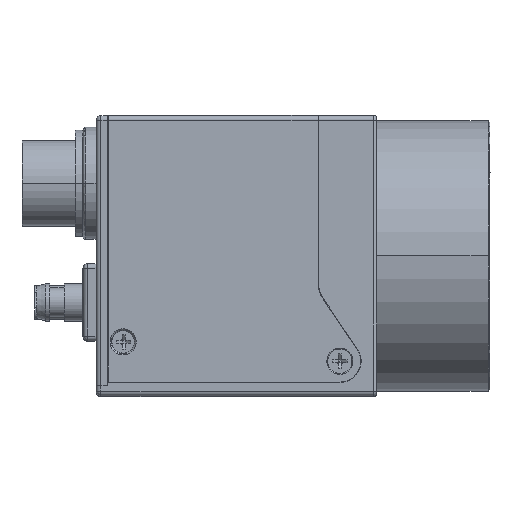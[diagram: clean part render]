
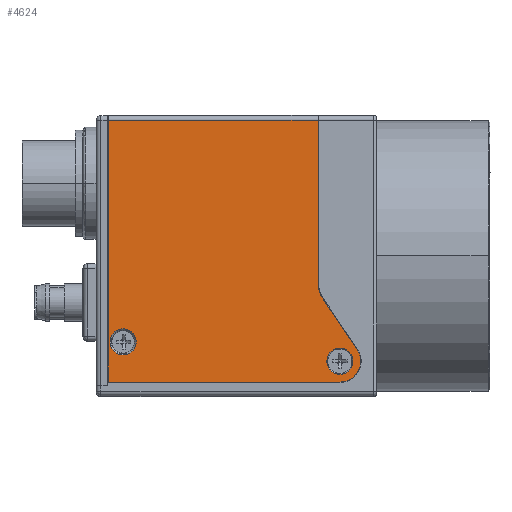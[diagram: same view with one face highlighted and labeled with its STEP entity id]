
A CAD part, top view. The second image highlights one B-rep face of the part: STEP entity #4624.
In plain terms, the highlighted planar face has unit normal (0, 0, 1) as drawn and (1, 0, 0) by its records, which use the part's own axes.
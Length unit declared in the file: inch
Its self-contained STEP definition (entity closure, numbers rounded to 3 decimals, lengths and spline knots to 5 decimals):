
#3559=DIRECTION('',(0.,-1.,0.));
#3560=VECTOR('',#3559,1.06496);
#3561=CARTESIAN_POINT('',(0.57087,1.06693,
0.42815));
#3562=LINE('',#3561,#3560);
#3567=DIRECTION('',(0.,0.,1.));
#3568=VECTOR('',#3567,0.94291);
#3569=CARTESIAN_POINT('',(0.57087,0.00197,
-0.51476));
#3570=LINE('',#3569,#3568);
#3571=DIRECTION('',(0.,-1.,0.));
#3572=VECTOR('',#3571,0.66076);
#3573=CARTESIAN_POINT('',(0.57087,1.06693,
-0.42618));
#3574=LINE('',#3573,#3572);
#3575=CARTESIAN_POINT('',(0.57087,0.40617,
-0.54626));
#3576=DIRECTION('',(1.,0.,0.));
#3577=DIRECTION('',(0.,0.,1.));
#3578=AXIS2_PLACEMENT_3D('',#3575,#3576,#3577);
#3580=DIRECTION('',(0.,-0.829,-0.559));
#3581=VECTOR('',#3580,0.24738);
#3582=CARTESIAN_POINT('',(0.57087,0.33905,
-0.44669));
#3583=LINE('',#3582,#3581);
#3584=CARTESIAN_POINT('',(0.57087,0.08661,
-0.51476));
#3585=DIRECTION('',(-1.,0.,0.));
#3586=DIRECTION('',(0.,0.559,-0.829));
#3587=AXIS2_PLACEMENT_3D('',#3584,#3585,#3586);
#3589=CARTESIAN_POINT('',(0.57087,0.08661,
-0.51476));
#3590=DIRECTION('',(-1.,0.,0.));
#3591=DIRECTION('',(0.,0.,-1.));
#3592=AXIS2_PLACEMENT_3D('',#3589,#3590,#3591);
#3594=CARTESIAN_POINT('',(0.57087,0.16535,
0.36713));
#3595=DIRECTION('',(1.,0.,0.));
#3596=DIRECTION('',(0.,0.,1.));
#3597=AXIS2_PLACEMENT_3D('',#3594,#3595,#3596);
#3599=CARTESIAN_POINT('',(0.57087,0.16535,
0.36713));
#3600=DIRECTION('',(1.,0.,0.));
#3601=DIRECTION('',(0.,0.,-1.));
#3602=AXIS2_PLACEMENT_3D('',#3599,#3600,#3601);
#3604=CARTESIAN_POINT('',(0.57087,0.08661,
-0.51476));
#3605=DIRECTION('',(1.,0.,0.));
#3606=DIRECTION('',(0.,0.,1.));
#3607=AXIS2_PLACEMENT_3D('',#3604,#3605,#3606);
#3609=CARTESIAN_POINT('',(0.57087,0.08661,
-0.51476));
#3610=DIRECTION('',(1.,0.,0.));
#3611=DIRECTION('',(0.,0.,-1.));
#3612=AXIS2_PLACEMENT_3D('',#3609,#3610,#3611);
#3614=DIRECTION('',(0.,0.,1.));
#3615=VECTOR('',#3614,0.85433);
#3616=CARTESIAN_POINT('',(0.57087,1.06693,
-0.42618));
#3617=LINE('',#3616,#3615);
#4308=CARTESIAN_POINT('',(0.57087,0.00197,
0.42815));
#4310=VERTEX_POINT('',#4308);
#4345=CARTESIAN_POINT('',(0.57087,1.06693,
0.42815));
#4346=VERTEX_POINT('',#4345);
#4347=CARTESIAN_POINT('',(0.57087,0.00197,
-0.51476));
#4348=VERTEX_POINT('',#4347);
#4351=CARTESIAN_POINT('',(0.57087,1.06693,
-0.42618));
#4352=VERTEX_POINT('',#4351);
#4353=CARTESIAN_POINT('',(0.57087,0.40617,
-0.42618));
#4354=VERTEX_POINT('',#4353);
#4355=CARTESIAN_POINT('',(0.57087,0.33905,
-0.44669));
#4356=VERTEX_POINT('',#4355);
#4357=CARTESIAN_POINT('',(0.57087,0.13392,
-0.58495));
#4358=VERTEX_POINT('',#4357);
#4359=CARTESIAN_POINT('',(0.57087,0.08661,
-0.59941));
#4360=VERTEX_POINT('',#4359);
#4361=CARTESIAN_POINT('',(0.57087,0.16535,
0.42028));
#4362=CARTESIAN_POINT('',(0.57087,0.16535,
0.31398));
#4363=VERTEX_POINT('',#4361);
#4364=VERTEX_POINT('',#4362);
#4365=CARTESIAN_POINT('',(0.57087,0.08661,
-0.46161));
#4366=CARTESIAN_POINT('',(0.57087,0.08661,
-0.56791));
#4367=VERTEX_POINT('',#4365);
#4368=VERTEX_POINT('',#4366);
#4591=CARTESIAN_POINT('',(0.57087,0.,-0.42815));
#4592=DIRECTION('',(1.,0.,0.));
#4593=DIRECTION('',(0.,1.,0.));
#4594=AXIS2_PLACEMENT_3D('',#4591,#4592,#4593);
#4595=PLANE('',#4594);
#4596=ORIENTED_EDGE('',*,*,#4581,.T.);
#4597=ORIENTED_EDGE('',*,*,#4571,.F.);
#4599=ORIENTED_EDGE('',*,*,#4598,.F.);
#4601=ORIENTED_EDGE('',*,*,#4600,.T.);
#4603=ORIENTED_EDGE('',*,*,#4602,.T.);
#4605=ORIENTED_EDGE('',*,*,#4604,.T.);
#4607=ORIENTED_EDGE('',*,*,#4606,.T.);
#4609=ORIENTED_EDGE('',*,*,#4608,.T.);
#4610=EDGE_LOOP('',(#4596,#4597,#4599,#4601,#4603,#4605,#4607,#4609));
#4611=FACE_OUTER_BOUND('',#4610,.F.);
#4613=ORIENTED_EDGE('',*,*,#4612,.T.);
#4615=ORIENTED_EDGE('',*,*,#4614,.T.);
#4616=EDGE_LOOP('',(#4613,#4615));
#4617=FACE_BOUND('',#4616,.F.);
#4619=ORIENTED_EDGE('',*,*,#4618,.T.);
#4621=ORIENTED_EDGE('',*,*,#4620,.T.);
#4622=EDGE_LOOP('',(#4619,#4621));
#4623=FACE_BOUND('',#4622,.F.);
#4624=ADVANCED_FACE('',(#4611,#4617,#4623),#4595,.T.);
#3579=CIRCLE('',#3578,0.12008);
#3588=CIRCLE('',#3587,0.08465);
#3593=CIRCLE('',#3592,0.08465);
#3598=CIRCLE('',#3597,0.05315);
#3603=CIRCLE('',#3602,0.05315);
#3608=CIRCLE('',#3607,0.05315);
#3613=CIRCLE('',#3612,0.05315);
#4571=EDGE_CURVE('',#4346,#4310,#3562,.T.);
#4581=EDGE_CURVE('',#4348,#4310,#3570,.T.);
#4598=EDGE_CURVE('',#4352,#4346,#3617,.T.);
#4600=EDGE_CURVE('',#4352,#4354,#3574,.T.);
#4602=EDGE_CURVE('',#4354,#4356,#3579,.T.);
#4604=EDGE_CURVE('',#4356,#4358,#3583,.T.);
#4606=EDGE_CURVE('',#4358,#4360,#3588,.T.);
#4608=EDGE_CURVE('',#4360,#4348,#3593,.T.);
#4612=EDGE_CURVE('',#4363,#4364,#3598,.T.);
#4614=EDGE_CURVE('',#4364,#4363,#3603,.T.);
#4618=EDGE_CURVE('',#4367,#4368,#3608,.T.);
#4620=EDGE_CURVE('',#4368,#4367,#3613,.T.);
